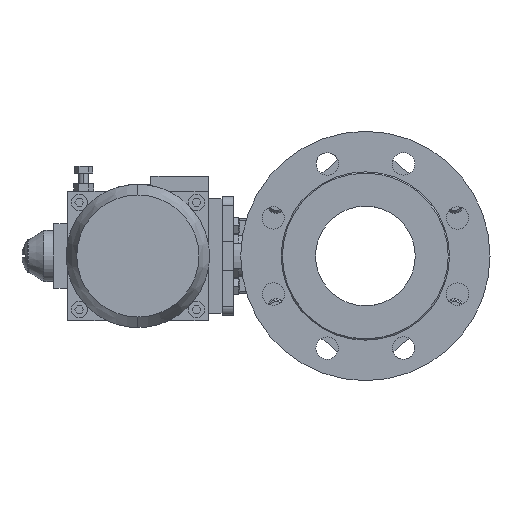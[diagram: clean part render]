
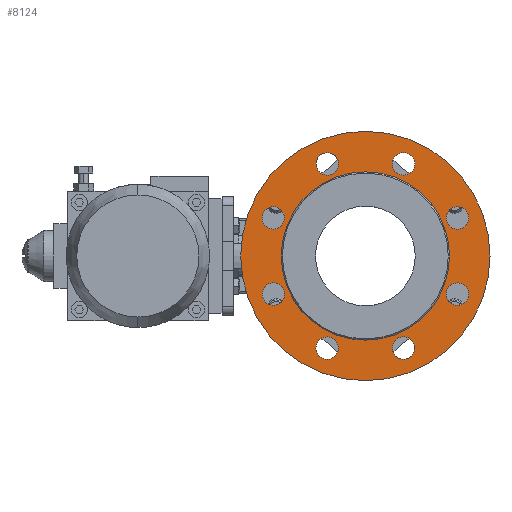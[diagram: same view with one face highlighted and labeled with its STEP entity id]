
A CAD part, left-side view. The second image highlights one B-rep face of the part: STEP entity #8124.
In plain terms, the highlighted planar face has unit normal (-1, 0, 0).
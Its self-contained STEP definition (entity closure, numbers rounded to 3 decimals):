
#2348=CARTESIAN_POINT('',(-70.,0.,0.));
#2349=DIRECTION('',(-1.,0.,0.));
#2350=DIRECTION('',(0.,0.,1.));
#2351=AXIS2_PLACEMENT_3D('',#2348,#2349,#2350);
#2353=CARTESIAN_POINT('',(-70.,0.,0.));
#2354=DIRECTION('',(-1.,0.,0.));
#2355=DIRECTION('',(0.,0.,-1.));
#2356=AXIS2_PLACEMENT_3D('',#2353,#2354,#2355);
#2358=CARTESIAN_POINT('',(-70.,0.,0.));
#2359=DIRECTION('',(-1.,0.,0.));
#2360=DIRECTION('',(0.,0.,1.));
#2361=AXIS2_PLACEMENT_3D('',#2358,#2359,#2360);
#2363=CARTESIAN_POINT('',(-70.,0.,0.));
#2364=DIRECTION('',(-1.,0.,0.));
#2365=DIRECTION('',(0.,0.,-1.));
#2366=AXIS2_PLACEMENT_3D('',#2363,#2364,#2365);
#2368=CARTESIAN_POINT('',(-70.,30.615,-73.91));
#2369=DIRECTION('',(-1.,0.,0.));
#2370=DIRECTION('',(0.,0.,1.));
#2371=AXIS2_PLACEMENT_3D('',#2368,#2369,#2370);
#2373=CARTESIAN_POINT('',(-70.,30.615,-73.91));
#2374=DIRECTION('',(-1.,0.,0.));
#2375=DIRECTION('',(0.,0.,-1.));
#2376=AXIS2_PLACEMENT_3D('',#2373,#2374,#2375);
#2378=CARTESIAN_POINT('',(-70.,-30.615,-73.91));
#2379=DIRECTION('',(-1.,0.,0.));
#2380=DIRECTION('',(0.,0.707,0.707));
#2381=AXIS2_PLACEMENT_3D('',#2378,#2379,#2380);
#2383=CARTESIAN_POINT('',(-70.,-30.615,-73.91));
#2384=DIRECTION('',(-1.,0.,0.));
#2385=DIRECTION('',(0.,-0.707,-0.707));
#2386=AXIS2_PLACEMENT_3D('',#2383,#2384,#2385);
#2388=CARTESIAN_POINT('',(-70.,-73.91,-30.615));
#2389=DIRECTION('',(-1.,0.,0.));
#2390=DIRECTION('',(0.,1.,0.));
#2391=AXIS2_PLACEMENT_3D('',#2388,#2389,#2390);
#2393=CARTESIAN_POINT('',(-70.,-73.91,-30.615));
#2394=DIRECTION('',(-1.,0.,0.));
#2395=DIRECTION('',(0.,-1.,0.));
#2396=AXIS2_PLACEMENT_3D('',#2393,#2394,#2395);
#2398=CARTESIAN_POINT('',(-70.,-73.91,30.615));
#2399=DIRECTION('',(-1.,0.,0.));
#2400=DIRECTION('',(0.,0.707,-0.707));
#2401=AXIS2_PLACEMENT_3D('',#2398,#2399,#2400);
#2403=CARTESIAN_POINT('',(-70.,-73.91,30.615));
#2404=DIRECTION('',(-1.,0.,0.));
#2405=DIRECTION('',(0.,-0.707,0.707));
#2406=AXIS2_PLACEMENT_3D('',#2403,#2404,#2405);
#2408=CARTESIAN_POINT('',(-70.,-30.615,73.91));
#2409=DIRECTION('',(-1.,0.,0.));
#2410=DIRECTION('',(0.,0.,-1.));
#2411=AXIS2_PLACEMENT_3D('',#2408,#2409,#2410);
#2413=CARTESIAN_POINT('',(-70.,-30.615,73.91));
#2414=DIRECTION('',(-1.,0.,0.));
#2415=DIRECTION('',(0.,0.,1.));
#2416=AXIS2_PLACEMENT_3D('',#2413,#2414,#2415);
#2418=CARTESIAN_POINT('',(-70.,30.615,73.91));
#2419=DIRECTION('',(-1.,0.,0.));
#2420=DIRECTION('',(0.,-0.707,-0.707));
#2421=AXIS2_PLACEMENT_3D('',#2418,#2419,#2420);
#2423=CARTESIAN_POINT('',(-70.,30.615,73.91));
#2424=DIRECTION('',(-1.,0.,0.));
#2425=DIRECTION('',(0.,0.707,0.707));
#2426=AXIS2_PLACEMENT_3D('',#2423,#2424,#2425);
#2428=CARTESIAN_POINT('',(-70.,73.91,30.615));
#2429=DIRECTION('',(-1.,0.,0.));
#2430=DIRECTION('',(0.,-1.,0.));
#2431=AXIS2_PLACEMENT_3D('',#2428,#2429,#2430);
#2433=CARTESIAN_POINT('',(-70.,73.91,30.615));
#2434=DIRECTION('',(-1.,0.,0.));
#2435=DIRECTION('',(0.,1.,0.));
#2436=AXIS2_PLACEMENT_3D('',#2433,#2434,#2435);
#2438=CARTESIAN_POINT('',(-70.,73.91,-30.615));
#2439=DIRECTION('',(-1.,0.,0.));
#2440=DIRECTION('',(0.,-0.707,0.707));
#2441=AXIS2_PLACEMENT_3D('',#2438,#2439,#2440);
#2443=CARTESIAN_POINT('',(-70.,73.91,-30.615));
#2444=DIRECTION('',(-1.,0.,0.));
#2445=DIRECTION('',(0.,0.707,-0.707));
#2446=AXIS2_PLACEMENT_3D('',#2443,#2444,#2445);
#4145=CARTESIAN_POINT('',(-70.,0.,100.));
#4146=CARTESIAN_POINT('',(-70.,0.,-100.));
#4147=VERTEX_POINT('',#4145);
#4148=VERTEX_POINT('',#4146);
#4157=CARTESIAN_POINT('',(-70.,0.,67.5));
#4158=CARTESIAN_POINT('',(-70.,0.,-67.5));
#4159=VERTEX_POINT('',#4157);
#4160=VERTEX_POINT('',#4158);
#4189=CARTESIAN_POINT('',(-70.,30.615,-64.91));
#4190=CARTESIAN_POINT('',(-70.,30.615,-82.91));
#4191=VERTEX_POINT('',#4189);
#4192=VERTEX_POINT('',#4190);
#4197=CARTESIAN_POINT('',(-70.,-24.251,-67.546));
#4198=CARTESIAN_POINT('',(-70.,-36.979,-80.274));
#4199=VERTEX_POINT('',#4197);
#4200=VERTEX_POINT('',#4198);
#4205=CARTESIAN_POINT('',(-70.,-64.91,-30.615));
#4206=CARTESIAN_POINT('',(-70.,-82.91,-30.615));
#4207=VERTEX_POINT('',#4205);
#4208=VERTEX_POINT('',#4206);
#4213=CARTESIAN_POINT('',(-70.,-67.546,24.251));
#4214=CARTESIAN_POINT('',(-70.,-80.274,36.979));
#4215=VERTEX_POINT('',#4213);
#4216=VERTEX_POINT('',#4214);
#4976=CARTESIAN_POINT('',(-70.,-30.615,64.91));
#4977=CARTESIAN_POINT('',(-70.,-30.615,82.91));
#4978=VERTEX_POINT('',#4976);
#4979=VERTEX_POINT('',#4977);
#4984=CARTESIAN_POINT('',(-70.,24.251,67.546));
#4985=CARTESIAN_POINT('',(-70.,36.979,80.274));
#4986=VERTEX_POINT('',#4984);
#4987=VERTEX_POINT('',#4985);
#4992=CARTESIAN_POINT('',(-70.,64.91,30.615));
#4993=CARTESIAN_POINT('',(-70.,82.91,30.615));
#4994=VERTEX_POINT('',#4992);
#4995=VERTEX_POINT('',#4993);
#5000=CARTESIAN_POINT('',(-70.,67.546,-24.251));
#5001=CARTESIAN_POINT('',(-70.,80.274,-36.979));
#5002=VERTEX_POINT('',#5000);
#5003=VERTEX_POINT('',#5001);
#8061=CARTESIAN_POINT('',(-70.,0.,0.));
#8062=DIRECTION('',(-1.,0.,0.));
#8063=DIRECTION('',(0.,0.,1.));
#8064=AXIS2_PLACEMENT_3D('',#8061,#8062,#8063);
#8065=PLANE('',#8064);
#8067=ORIENTED_EDGE('',*,*,#8066,.F.);
#8069=ORIENTED_EDGE('',*,*,#8068,.F.);
#8070=EDGE_LOOP('',(#8067,#8069));
#8071=FACE_OUTER_BOUND('',#8070,.F.);
#8072=ORIENTED_EDGE('',*,*,#8041,.T.);
#8073=ORIENTED_EDGE('',*,*,#8055,.T.);
#8074=EDGE_LOOP('',(#8072,#8073));
#8075=FACE_BOUND('',#8074,.F.);
#8077=ORIENTED_EDGE('',*,*,#8076,.T.);
#8079=ORIENTED_EDGE('',*,*,#8078,.T.);
#8080=EDGE_LOOP('',(#8077,#8079));
#8081=FACE_BOUND('',#8080,.F.);
#8083=ORIENTED_EDGE('',*,*,#8082,.T.);
#8085=ORIENTED_EDGE('',*,*,#8084,.T.);
#8086=EDGE_LOOP('',(#8083,#8085));
#8087=FACE_BOUND('',#8086,.F.);
#8089=ORIENTED_EDGE('',*,*,#8088,.T.);
#8091=ORIENTED_EDGE('',*,*,#8090,.T.);
#8092=EDGE_LOOP('',(#8089,#8091));
#8093=FACE_BOUND('',#8092,.F.);
#8095=ORIENTED_EDGE('',*,*,#8094,.T.);
#8097=ORIENTED_EDGE('',*,*,#8096,.T.);
#8098=EDGE_LOOP('',(#8095,#8097));
#8099=FACE_BOUND('',#8098,.F.);
#8101=ORIENTED_EDGE('',*,*,#8100,.T.);
#8103=ORIENTED_EDGE('',*,*,#8102,.T.);
#8104=EDGE_LOOP('',(#8101,#8103));
#8105=FACE_BOUND('',#8104,.F.);
#8107=ORIENTED_EDGE('',*,*,#8106,.T.);
#8109=ORIENTED_EDGE('',*,*,#8108,.T.);
#8110=EDGE_LOOP('',(#8107,#8109));
#8111=FACE_BOUND('',#8110,.F.);
#8113=ORIENTED_EDGE('',*,*,#8112,.T.);
#8115=ORIENTED_EDGE('',*,*,#8114,.T.);
#8116=EDGE_LOOP('',(#8113,#8115));
#8117=FACE_BOUND('',#8116,.F.);
#8119=ORIENTED_EDGE('',*,*,#8118,.T.);
#8121=ORIENTED_EDGE('',*,*,#8120,.T.);
#8122=EDGE_LOOP('',(#8119,#8121));
#8123=FACE_BOUND('',#8122,.F.);
#8124=ADVANCED_FACE('',(#8071,#8075,#8081,#8087,#8093,#8099,#8105,#8111,#8117,
#8123),#8065,.T.);
#2352=CIRCLE('',#2351,100.);
#2357=CIRCLE('',#2356,100.);
#2362=CIRCLE('',#2361,67.5);
#2367=CIRCLE('',#2366,67.5);
#2372=CIRCLE('',#2371,9.);
#2377=CIRCLE('',#2376,9.);
#2382=CIRCLE('',#2381,9.);
#2387=CIRCLE('',#2386,9.);
#2392=CIRCLE('',#2391,9.);
#2397=CIRCLE('',#2396,9.);
#2402=CIRCLE('',#2401,9.);
#2407=CIRCLE('',#2406,9.);
#2412=CIRCLE('',#2411,9.);
#2417=CIRCLE('',#2416,9.);
#2422=CIRCLE('',#2421,9.);
#2427=CIRCLE('',#2426,9.);
#2432=CIRCLE('',#2431,9.);
#2437=CIRCLE('',#2436,9.);
#2442=CIRCLE('',#2441,9.);
#2447=CIRCLE('',#2446,9.);
#8041=EDGE_CURVE('',#4159,#4160,#2362,.T.);
#8055=EDGE_CURVE('',#4160,#4159,#2367,.T.);
#8066=EDGE_CURVE('',#4147,#4148,#2352,.T.);
#8068=EDGE_CURVE('',#4148,#4147,#2357,.T.);
#8076=EDGE_CURVE('',#4191,#4192,#2372,.T.);
#8078=EDGE_CURVE('',#4192,#4191,#2377,.T.);
#8082=EDGE_CURVE('',#4199,#4200,#2382,.T.);
#8084=EDGE_CURVE('',#4200,#4199,#2387,.T.);
#8088=EDGE_CURVE('',#4207,#4208,#2392,.T.);
#8090=EDGE_CURVE('',#4208,#4207,#2397,.T.);
#8094=EDGE_CURVE('',#4215,#4216,#2402,.T.);
#8096=EDGE_CURVE('',#4216,#4215,#2407,.T.);
#8100=EDGE_CURVE('',#4978,#4979,#2412,.T.);
#8102=EDGE_CURVE('',#4979,#4978,#2417,.T.);
#8106=EDGE_CURVE('',#4986,#4987,#2422,.T.);
#8108=EDGE_CURVE('',#4987,#4986,#2427,.T.);
#8112=EDGE_CURVE('',#4994,#4995,#2432,.T.);
#8114=EDGE_CURVE('',#4995,#4994,#2437,.T.);
#8118=EDGE_CURVE('',#5002,#5003,#2442,.T.);
#8120=EDGE_CURVE('',#5003,#5002,#2447,.T.);
